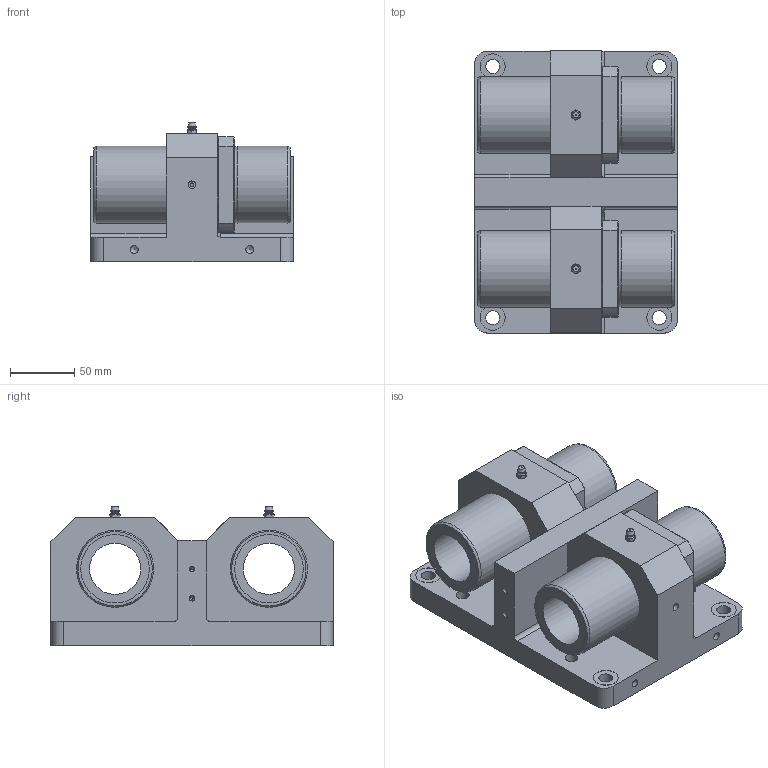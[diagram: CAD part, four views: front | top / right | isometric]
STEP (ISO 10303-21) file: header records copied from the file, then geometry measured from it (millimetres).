
FILE_DESCRIPTION((''),'2;1');
FILE_NAME('D:\製品 (図面)\カタログ用3D\リニアベアリング関連\STEP形式\LUFD\LUFD40.stp','2010-07-29T14:35:47',('Tsuchiya'),(''),'Autodesk Inventor 10','Autodesk Inventor 10','');
FILE_SCHEMA(('AUTOMOTIVE_DESIGN { 1 0 10303 214 1 1 1 1 }'));
Length unit declared in the file: millimetre
Products named in the file (4): LUFD40; LUFD401; LUFD402; LUFD403
Assembly tree (3 placements, depth 2):
  LUFD40
    LUFD401
    LUFD402
    LUFD403
Bounding box: 158 x 220 x 108.8 mm (x, y, z)
Volume: 1795026.4 mm3; surface area: 278218.2 mm2
Topology: 13 solids, 13 shells, 398 faces, 894 edges, 566 vertices
Faces by surface type: plane 160, bspline 83, cylinder 75, cone 64, torus 12, sphere 4
Full cylindrical faces by diameter (mm): 3 x3, 6 x4, 8 x12, 10 x2, 11 x2, 13 x8, 19.5 x2, 40 x2, 53.4 x4, 60 x7
Entity records: 12274 total; most frequent: CARTESIAN_POINT 4704, DIRECTION 1446, ORIENTED_EDGE 1360, EDGE_CURVE 680, EDGE_LOOP 648, AXIS2_PLACEMENT_3D 600, VERTEX_POINT 510, FACE_OUTER_BOUND 398
